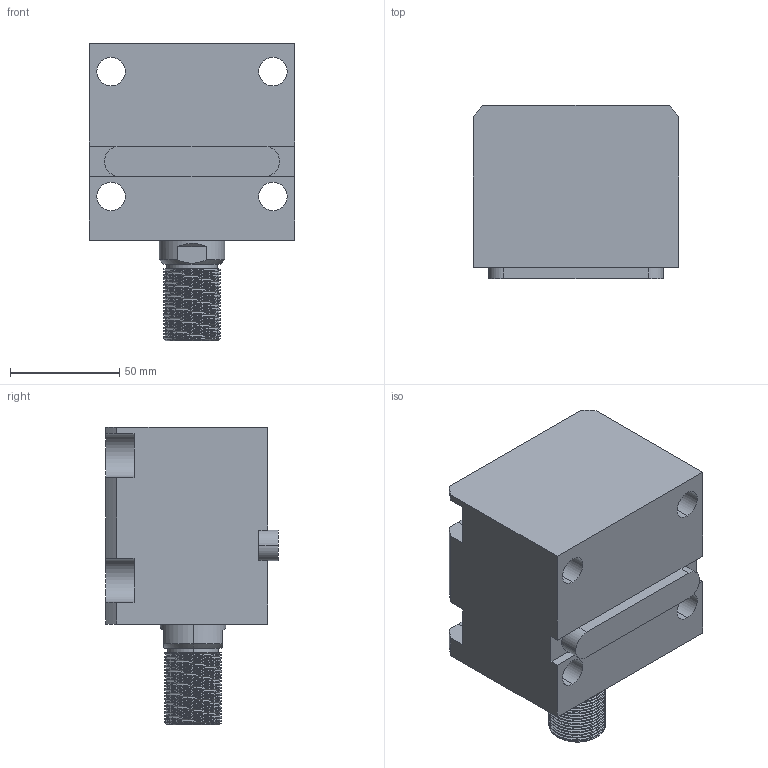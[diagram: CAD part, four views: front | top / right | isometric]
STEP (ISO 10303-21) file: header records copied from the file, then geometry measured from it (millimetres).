
FILE_DESCRIPTION (( 'STEP AP203' ), '1' );
FILE_NAME ('CHTB-LA50-30W.STEP', '2018-05-18T00:28:07', ( '' ), ( '' ), 'SwSTEP 2.0', 'SolidWorks 2015', '' );
FILE_SCHEMA (( 'CONFIG_CONTROL_DESIGN' ));
Length unit declared in the file: millimetre
Products named in the file (4): 活塞杆LA50-30W; CHTB-LA50-30W; 掛极LA50-30W; CHTM-SDMA50QG
Assembly tree (3 placements, depth 2):
  CHTB-LA50-30W
    掛极LA50-30W
    活塞杆LA50-30W
    CHTM-SDMA50QG
Bounding box: 94 x 79 x 136 mm (x, y, z)
Volume: 558856.5 mm3; surface area: 104256.6 mm2
Topology: 3 solids, 3 shells, 244 faces, 670 edges, 447 vertices
Faces by surface type: cylinder 136, plane 55, cone 21, bspline 16, torus 16
Entity records: 15046 total; most frequent: CARTESIAN_POINT 8903, ORIENTED_EDGE 1332, DIRECTION 1073, EDGE_CURVE 666, VERTEX_POINT 447, AXIS2_PLACEMENT_3D 416, EDGE_LOOP 277, FACE_OUTER_BOUND 244
